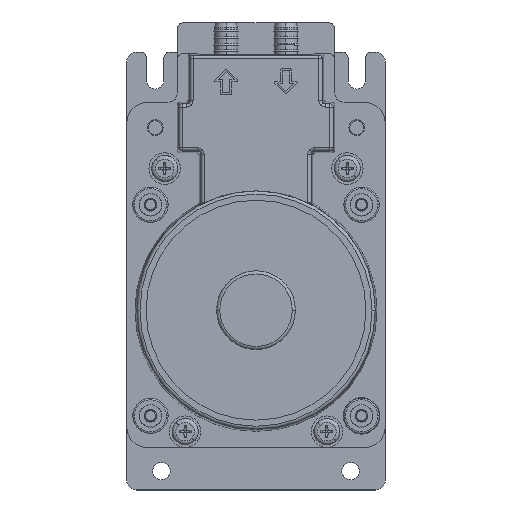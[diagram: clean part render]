
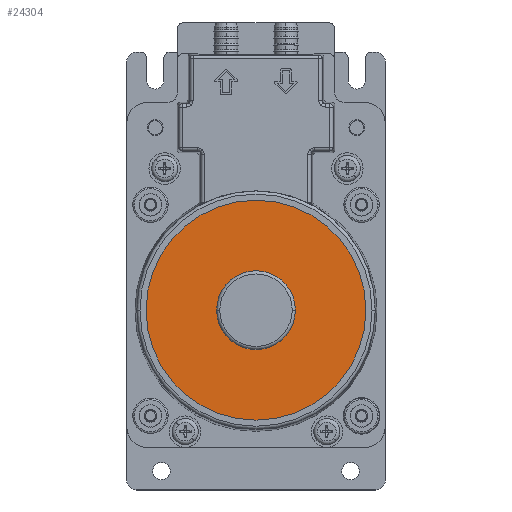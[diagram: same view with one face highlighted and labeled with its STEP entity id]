
A CAD part, top view. The second image highlights one B-rep face of the part: STEP entity #24304.
In plain terms, the highlighted planar face has unit normal (0, 0, 1).
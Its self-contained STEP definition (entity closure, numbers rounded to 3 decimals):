
#1029 = EDGE_LOOP ( 'NONE', ( #17112, #12347 ) ) ;
#2027 = EDGE_CURVE ( 'NONE', #20002, #24137, #2226, .T. ) ;
#2226 = CIRCLE ( 'NONE', #28096, 34.9 ) ;
#4502 = CARTESIAN_POINT ( 'NONE',  ( 0., 0., 35.5 ) ) ;
#4578 = CARTESIAN_POINT ( 'NONE',  ( 0., 0., 35.5 ) ) ;
#4903 = CARTESIAN_POINT ( 'NONE',  ( 0., 0., 35.5 ) ) ;
#6354 = AXIS2_PLACEMENT_3D ( 'NONE', #4502, #19809, #8924 ) ;
#6935 = DIRECTION ( 'NONE',  ( 1., 0., 0. ) ) ;
#8217 = CIRCLE ( 'NONE', #6354, 12.5 ) ;
#8924 = DIRECTION ( 'NONE',  ( 1., 0., 0. ) ) ;
#9154 = CARTESIAN_POINT ( 'NONE',  ( -34.9, 0., 35.5 ) ) ;
#9265 = AXIS2_PLACEMENT_3D ( 'NONE', #11214, #15912, #6935 ) ;
#9445 = EDGE_LOOP ( 'NONE', ( #28400, #14444 ) ) ;
#11214 = CARTESIAN_POINT ( 'NONE',  ( 0., 0., 35.5 ) ) ;
#11814 = DIRECTION ( 'NONE',  ( 0., 0., 1. ) ) ;
#12347 = ORIENTED_EDGE ( 'NONE', *, *, #19986, .F. ) ;
#12374 = AXIS2_PLACEMENT_3D ( 'NONE', #4903, #24298, #12954 ) ;
#12954 = DIRECTION ( 'NONE',  ( 1., 0., 0. ) ) ;
#13468 = CARTESIAN_POINT ( 'NONE',  ( 34.9, 0., 35.5 ) ) ;
#13936 = EDGE_CURVE ( 'NONE', #24137, #20002, #25544, .T. ) ;
#13961 = CIRCLE ( 'NONE', #9265, 12.5 ) ;
#14444 = ORIENTED_EDGE ( 'NONE', *, *, #2027, .F. ) ;
#14571 = CARTESIAN_POINT ( 'NONE',  ( -12.5, 0., 35.5 ) ) ;
#15912 = DIRECTION ( 'NONE',  ( 0., 0., 1. ) ) ;
#16310 = VERTEX_POINT ( 'NONE', #27875 ) ;
#16381 = FACE_OUTER_BOUND ( 'NONE', #9445, .T. ) ;
#16664 = EDGE_CURVE ( 'NONE', #19367, #16310, #13961, .T. ) ;
#17112 = ORIENTED_EDGE ( 'NONE', *, *, #16664, .F. ) ;
#18557 = CARTESIAN_POINT ( 'NONE',  ( 0., 0., 35.5 ) ) ;
#18699 = AXIS2_PLACEMENT_3D ( 'NONE', #18557, #11814, #18862 ) ;
#18862 = DIRECTION ( 'NONE',  ( 1., 0., 0. ) ) ;
#19367 = VERTEX_POINT ( 'NONE', #14571 ) ;
#19809 = DIRECTION ( 'NONE',  ( 0., 0., 1. ) ) ;
#19884 = DIRECTION ( 'NONE',  ( 1., 0., 0. ) ) ;
#19986 = EDGE_CURVE ( 'NONE', #16310, #19367, #8217, .T. ) ;
#20002 = VERTEX_POINT ( 'NONE', #13468 ) ;
#20644 = FACE_BOUND ( 'NONE', #1029, .T. ) ;
#22529 = DIRECTION ( 'NONE',  ( 0., 0., -1. ) ) ;
#22996 = PLANE ( 'NONE',  #18699 ) ;
#24137 = VERTEX_POINT ( 'NONE', #9154 ) ;
#24298 = DIRECTION ( 'NONE',  ( 0., 0., -1. ) ) ;
#24304 = ADVANCED_FACE ( 'NONE', ( #20644, #16381 ), #22996, .T. ) ;
#25544 = CIRCLE ( 'NONE', #12374, 34.9 ) ;
#27875 = CARTESIAN_POINT ( 'NONE',  ( 12.5, 0., 35.5 ) ) ;
#28096 = AXIS2_PLACEMENT_3D ( 'NONE', #4578, #22529, #19884 ) ;
#28400 = ORIENTED_EDGE ( 'NONE', *, *, #13936, .F. ) ;
